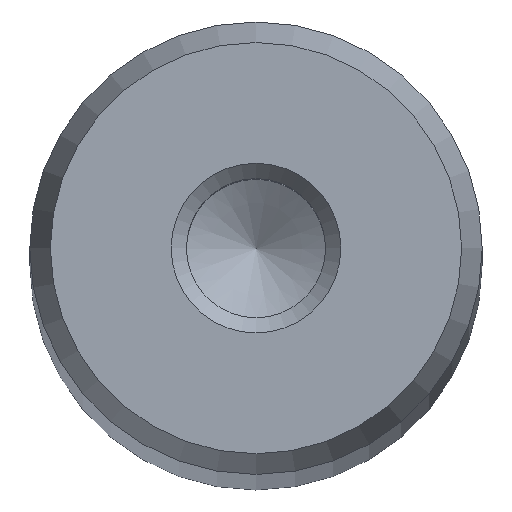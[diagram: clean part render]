
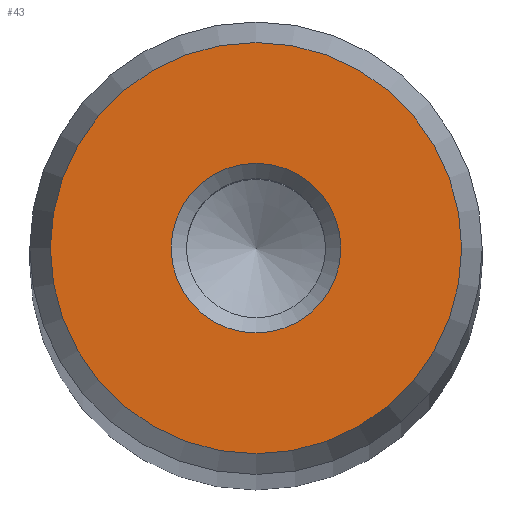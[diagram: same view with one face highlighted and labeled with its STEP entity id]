
A CAD part, top view. The second image highlights one B-rep face of the part: STEP entity #43.
In plain terms, the highlighted planar face has unit normal (0, 0, 1).
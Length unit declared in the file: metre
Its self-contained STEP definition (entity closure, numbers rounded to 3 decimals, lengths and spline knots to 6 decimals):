
#43 = ADVANCED_FACE( '', ( #92, #93 ), #94, .T. );
#92 = FACE_OUTER_BOUND( '', #151, .T. );
#93 = FACE_BOUND( '', #152, .T. );
#94 = PLANE( '', #153 );
#151 = EDGE_LOOP( '', ( #210 ) );
#152 = EDGE_LOOP( '', ( #211 ) );
#153 = AXIS2_PLACEMENT_3D( '', #212, #213, #214 );
#210 = ORIENTED_EDGE( '', *, *, #277, .T. );
#211 = ORIENTED_EDGE( '', *, *, #279, .T. );
#212 = CARTESIAN_POINT( '', ( 0., 0., 0.317 ) );
#213 = DIRECTION( '', ( 0., 0., 1. ) );
#214 = DIRECTION( '', ( 1., 0., 0. ) );
#277 = EDGE_CURVE( '', #309, #309, #310, .T. );
#279 = EDGE_CURVE( '', #312, #312, #313, .T. );
#309 = VERTEX_POINT( '', #346 );
#310 = CIRCLE( '', #347, 0.007272 );
#312 = VERTEX_POINT( '', #349 );
#313 = CIRCLE( '', #350, 0.003 );
#346 = CARTESIAN_POINT( '', ( 0.007272, 0., 0.317 ) );
#347 = AXIS2_PLACEMENT_3D( '', #385, #386, #387 );
#349 = CARTESIAN_POINT( '', ( 0.003, 0., 0.317 ) );
#350 = AXIS2_PLACEMENT_3D( '', #388, #389, #390 );
#385 = CARTESIAN_POINT( '', ( 0., 0., 0.317 ) );
#386 = DIRECTION( '', ( 0., 0., 1. ) );
#387 = DIRECTION( '', ( 1., 0., 0. ) );
#388 = CARTESIAN_POINT( '', ( 0., 0., 0.317 ) );
#389 = DIRECTION( '', ( 0., 0., -1. ) );
#390 = DIRECTION( '', ( 1., 0., 0. ) );
